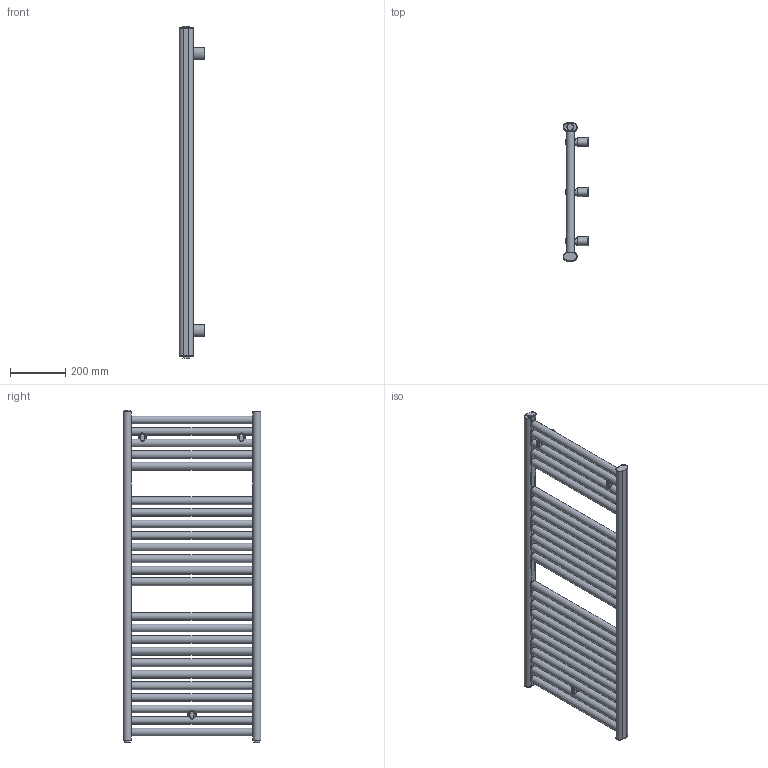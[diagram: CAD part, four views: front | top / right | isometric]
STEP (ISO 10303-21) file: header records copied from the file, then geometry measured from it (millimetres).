
FILE_DESCRIPTION(/* description */ (''),/* implementation_level */ '2;1');
FILE_NAME(/* name */ 'C:\Grzejniki\13DLUXRAD\łazienkowe\MARS\MARS 1194x500.iam.stp',/* time_stamp */ '2016-06-28T17:50:39+02:00',/* author */ ('m.szydziak'),/* organization */ (''),/* preprocessor_version */ 'ST-DEVELOPER v16.5',/* originating_system */ 'Autodesk Inventor 2017',/* authorisation */ '');
FILE_SCHEMA (('AUTOMOTIVE_DESIGN { 1 0 10303 214 3 1 1 }'));
Length unit declared in the file: millimetre
Products named in the file (10): MARS 1194x500; 50x30x1,5x1194; %%c28x1,2x450; zaślepka 50x30 G0,5inch.ipt; zaślepka 50x30.ipt; korek; mocowanie mars; 1; 2; 3
Assembly tree (39 placements, depth 3):
  MARS 1194x500
    50x30x1,5x1194  x2
    %%c28x1,2x450  x24
    zaślepka 50x30 G0,5inch.ipt  x3
    zaślepka 50x30.ipt
    korek  x3
    mocowanie mars  x3
      1
      2
      3
Bounding box: 92 x 500 x 1206 mm (x, y, z)
Volume: 1695277.6 mm3; surface area: 2458953.8 mm2
Topology: 42 solids, 42 shells, 527 faces, 1429 edges, 897 vertices
Faces by surface type: plane 256, cylinder 124, cone 96, bspline 51
Full cylindrical faces by diameter (mm): 18.631 x3, 24 x3, 25.6 x24, 27.8 x48, 28 x24
Entity records: 8292 total; most frequent: CARTESIAN_POINT 3699, ORIENTED_EDGE 922, DIRECTION 864, EDGE_CURVE 461, AXIS2_PLACEMENT_3D 344, VERTEX_POINT 313, EDGE_LOOP 194, LINE 176
